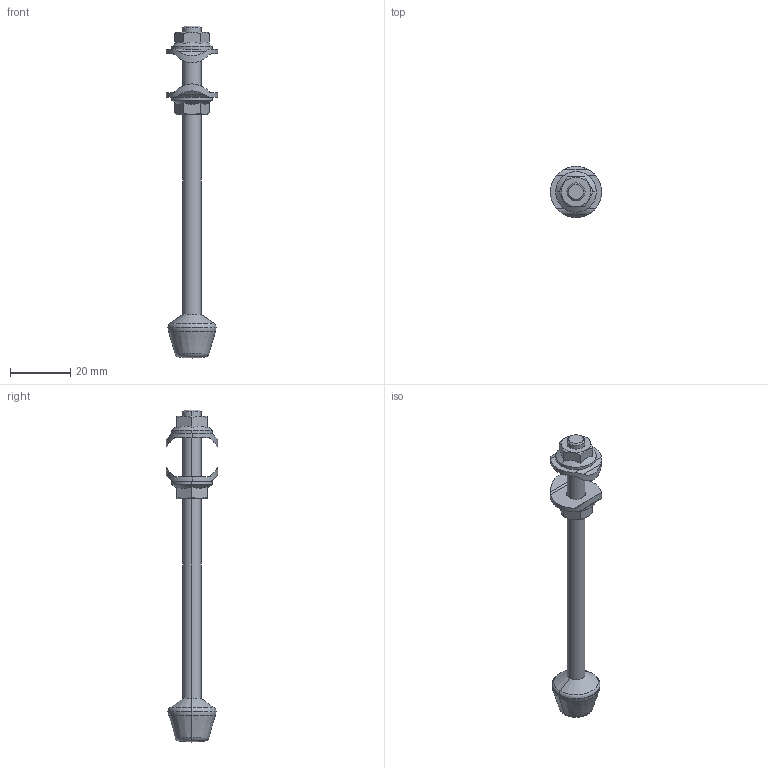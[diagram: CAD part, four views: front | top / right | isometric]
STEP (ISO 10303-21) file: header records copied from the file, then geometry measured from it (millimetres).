
FILE_DESCRIPTION(('STEP AP242'),'1');
FILE_NAME('911-2-c1.stp','2023-12-01T10:49:58',('TraceParts'),('TraceParts S.A.'),'Spatial InterOp 3D',' ',' ');
FILE_SCHEMA(('AP242_MANAGED_MODEL_BASED_3D_ENGINEERING_MIM_LF {1 0 10303 442 1 1 4}'));
Length unit declared in the file: millimetre
Products named in the file (1): 911-2-c1_1
Bounding box: 17 x 17 x 110.5 mm (x, y, z)
Volume: 6228.1 mm3; surface area: 4701.3 mm2
Topology: 5 solids, 5 shells, 87 faces, 198 edges, 119 vertices
Faces by surface type: plane 29, cylinder 28, cone 22, torus 6, sphere 2
Entity records: 2765 total; most frequent: CARTESIAN_POINT 635, DIRECTION 426, ORIENTED_EDGE 392, EDGE_CURVE 196, AXIS2_PLACEMENT_3D 178, VERTEX_POINT 119, EDGE_LOOP 95, ADVANCED_FACE 87
